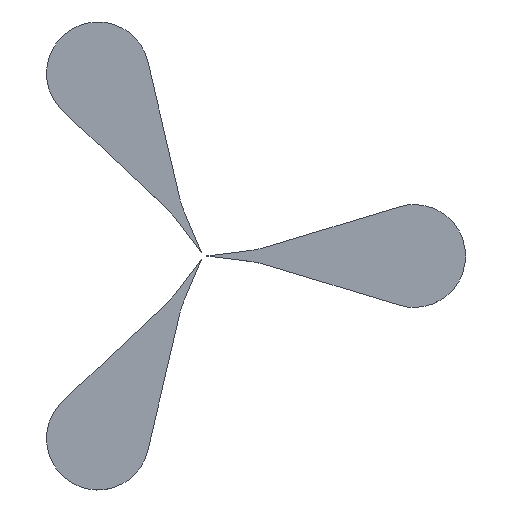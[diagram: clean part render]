
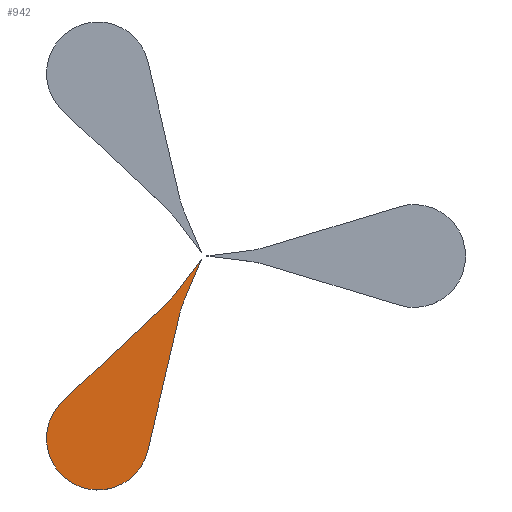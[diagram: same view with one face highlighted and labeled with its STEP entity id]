
A CAD part, top view. The second image highlights one B-rep face of the part: STEP entity #942.
In plain terms, the highlighted planar face has unit normal (0, 0, 1).
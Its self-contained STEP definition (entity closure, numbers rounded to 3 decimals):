
#6 = VERTEX_POINT ( 'NONE', #906 ) ;
#21 = ORIENTED_EDGE ( 'NONE', *, *, #108, .T. ) ;
#22 = LINE ( 'NONE', #504, #949 ) ;
#39 = CARTESIAN_POINT ( 'NONE',  ( -10.25, -17.754, 0.25 ) ) ;
#86 = CIRCLE ( 'NONE', #200, 5. ) ;
#87 = VERTEX_POINT ( 'NONE', #417 ) ;
#94 = CARTESIAN_POINT ( 'NONE',  ( -2.328, -5.786, 0.25 ) ) ;
#102 = CIRCLE ( 'NONE', #699, 5. ) ;
#103 = CARTESIAN_POINT ( 'NONE',  ( -10.25, -17.754, 0.25 ) ) ;
#108 = EDGE_CURVE ( 'NONE', #831, #786, #232, .T. ) ;
#114 = DIRECTION ( 'NONE',  ( 1., 0., 0. ) ) ;
#120 = ORIENTED_EDGE ( 'NONE', *, *, #472, .T. ) ;
#168 = DIRECTION ( 'NONE',  ( 0.227, 0.974, 0. ) ) ;
#171 = EDGE_CURVE ( 'NONE', #924, #528, #22, .T. ) ;
#175 = CARTESIAN_POINT ( 'NONE',  ( -0.183, -0.307, 0.25 ) ) ;
#176 = CARTESIAN_POINT ( 'NONE',  ( -0.179, -0.31, 0.25 ) ) ;
#181 = PLANE ( 'NONE',  #321 ) ;
#193 = DIRECTION ( 'NONE',  ( 1., 0., 0. ) ) ;
#198 = DIRECTION ( 'NONE',  ( 0., 0., 1. ) ) ;
#200 = AXIS2_PLACEMENT_3D ( 'NONE', #103, #437, #746 ) ;
#232 = CIRCLE ( 'NONE', #354, 10. ) ;
#237 = DIRECTION ( 'NONE',  ( -1., 0., 0. ) ) ;
#242 = LINE ( 'NONE', #894, #544 ) ;
#247 = LINE ( 'NONE', #94, #935 ) ;
#269 = CARTESIAN_POINT ( 'NONE',  ( -2.708, -3.644, 0.25 ) ) ;
#276 = CARTESIAN_POINT ( 'NONE',  ( -0.174, -0.312, 0.25 ) ) ;
#279 = DIRECTION ( 'NONE',  ( 1., 0., 0. ) ) ;
#321 = AXIS2_PLACEMENT_3D ( 'NONE', #509, #836, #193 ) ;
#343 = EDGE_LOOP ( 'NONE', ( #856, #757, #685, #671, #397, #578, #461, #21, #120 ) ) ;
#354 = AXIS2_PLACEMENT_3D ( 'NONE', #1018, #529, #849 ) ;
#397 = ORIENTED_EDGE ( 'NONE', *, *, #573, .T. ) ;
#412 = DIRECTION ( 'NONE',  ( 0.389, 0.921, 0. ) ) ;
#417 = CARTESIAN_POINT ( 'NONE',  ( -13.667, -14.104, 0.25 ) ) ;
#419 = CIRCLE ( 'NONE', #718, 10. ) ;
#422 = CARTESIAN_POINT ( 'NONE',  ( -3.847, -4.909, 0.25 ) ) ;
#436 = AXIS2_PLACEMENT_3D ( 'NONE', #176, #502, #114 ) ;
#437 = DIRECTION ( 'NONE',  ( 0., 0., 1. ) ) ;
#458 = CARTESIAN_POINT ( 'NONE',  ( -1.802, -4.167, 0.25 ) ) ;
#459 = EDGE_CURVE ( 'NONE', #1057, #831, #247, .T. ) ;
#461 = ORIENTED_EDGE ( 'NONE', *, *, #459, .T. ) ;
#472 = EDGE_CURVE ( 'NONE', #786, #539, #242, .T. ) ;
#473 = VECTOR ( 'NONE', #918, 1000. ) ;
#477 = DIRECTION ( 'NONE',  ( 0., 0., -1. ) ) ;
#485 = EDGE_CURVE ( 'NONE', #528, #874, #419, .T. ) ;
#502 = DIRECTION ( 'NONE',  ( 0., 0., 1. ) ) ;
#504 = CARTESIAN_POINT ( 'NONE',  ( -0.183, -0.307, 0.25 ) ) ;
#509 = CARTESIAN_POINT ( 'NONE',  ( -0.179, -0.31, 0.25 ) ) ;
#528 = VERTEX_POINT ( 'NONE', #269 ) ;
#529 = DIRECTION ( 'NONE',  ( 0., 0., -1. ) ) ;
#539 = VERTEX_POINT ( 'NONE', #276 ) ;
#544 = VECTOR ( 'NONE', #412, 1000. ) ;
#573 = EDGE_CURVE ( 'NONE', #87, #6, #86, .T. ) ;
#578 = ORIENTED_EDGE ( 'NONE', *, *, #605, .T. ) ;
#605 = EDGE_CURVE ( 'NONE', #6, #1057, #102, .T. ) ;
#613 = EDGE_CURVE ( 'NONE', #874, #87, #829, .T. ) ;
#628 = CARTESIAN_POINT ( 'NONE',  ( -2.328, -5.786, 0.25 ) ) ;
#659 = EDGE_CURVE ( 'NONE', #539, #924, #769, .T. ) ;
#671 = ORIENTED_EDGE ( 'NONE', *, *, #613, .T. ) ;
#685 = ORIENTED_EDGE ( 'NONE', *, *, #485, .T. ) ;
#699 = AXIS2_PLACEMENT_3D ( 'NONE', #39, #198, #279 ) ;
#718 = AXIS2_PLACEMENT_3D ( 'NONE', #824, #477, #237 ) ;
#746 = DIRECTION ( 'NONE',  ( 1., 0., 0. ) ) ;
#757 = ORIENTED_EDGE ( 'NONE', *, *, #171, .T. ) ;
#769 = CIRCLE ( 'NONE', #436, 0.005 ) ;
#786 = VERTEX_POINT ( 'NONE', #458 ) ;
#792 = CARTESIAN_POINT ( 'NONE',  ( -5.38, -18.888, 0.25 ) ) ;
#824 = CARTESIAN_POINT ( 'NONE',  ( -10.682, 2.391, 0.25 ) ) ;
#829 = LINE ( 'NONE', #422, #473 ) ;
#831 = VERTEX_POINT ( 'NONE', #628 ) ;
#836 = DIRECTION ( 'NONE',  ( 0., 0., 1. ) ) ;
#849 = DIRECTION ( 'NONE',  ( 1., 0., 0. ) ) ;
#855 = DIRECTION ( 'NONE',  ( -0.603, -0.797, 0. ) ) ;
#856 = ORIENTED_EDGE ( 'NONE', *, *, #659, .T. ) ;
#874 = VERTEX_POINT ( 'NONE', #893 ) ;
#893 = CARTESIAN_POINT ( 'NONE',  ( -3.847, -4.909, 0.25 ) ) ;
#894 = CARTESIAN_POINT ( 'NONE',  ( -0.174, -0.312, 0.25 ) ) ;
#906 = CARTESIAN_POINT ( 'NONE',  ( -15.25, -17.754, 0.25 ) ) ;
#918 = DIRECTION ( 'NONE',  ( -0.73, -0.683, 0. ) ) ;
#924 = VERTEX_POINT ( 'NONE', #175 ) ;
#935 = VECTOR ( 'NONE', #168, 1000. ) ;
#942 = ADVANCED_FACE ( 'NONE', ( #1012 ), #181, .T. ) ;
#949 = VECTOR ( 'NONE', #855, 1000. ) ;
#1012 = FACE_OUTER_BOUND ( 'NONE', #343, .T. ) ;
#1018 = CARTESIAN_POINT ( 'NONE',  ( 7.411, -8.056, 0.25 ) ) ;
#1057 = VERTEX_POINT ( 'NONE', #792 ) ;
